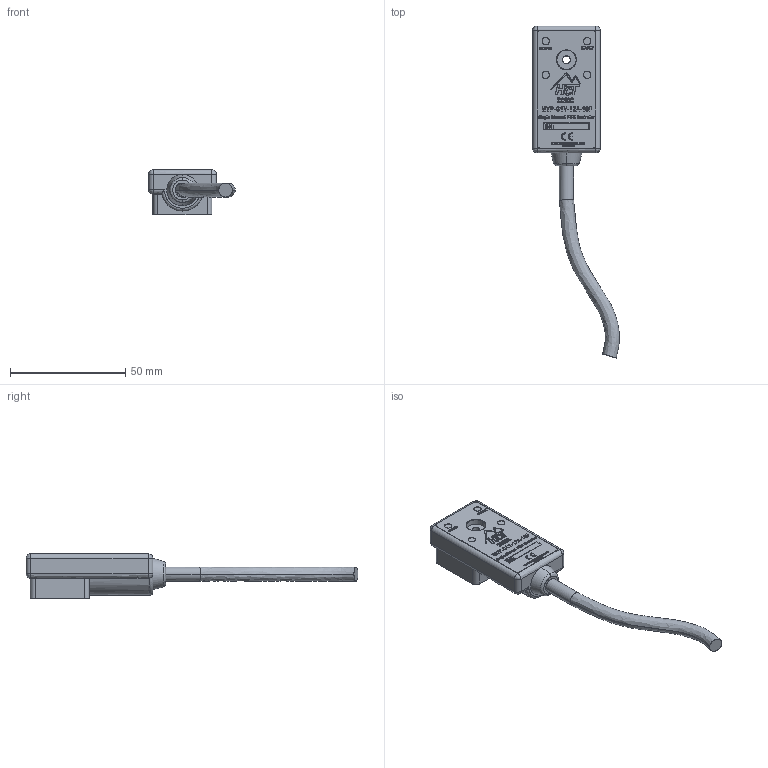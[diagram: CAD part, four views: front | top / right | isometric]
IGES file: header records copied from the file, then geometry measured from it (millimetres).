
Start section: SolidWorks IGES file using analytic representation for surfaces
Global section: file name: I:\HCT\MVP\MVP Assy.IGS; native system: SolidWorks 2012; preprocessor: SolidWorks 2012; author: dphillips; date: 141101.111833; units: inch
Bounding box: 37.76 x 144.31 x 19.6 mm (x, y, z)
Surface area: 10978.7 mm2 (no closed solid volume)
Topology: 0 solids, 0 shells, 2975 faces, 28047 edges, 28044 vertices
Faces by surface type: bspline 2918, revolution 57
